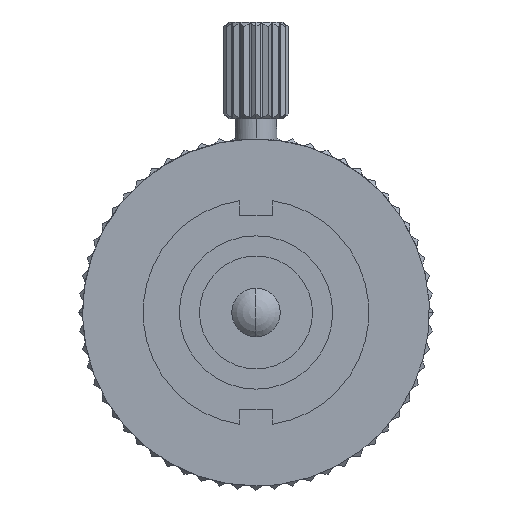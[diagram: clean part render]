
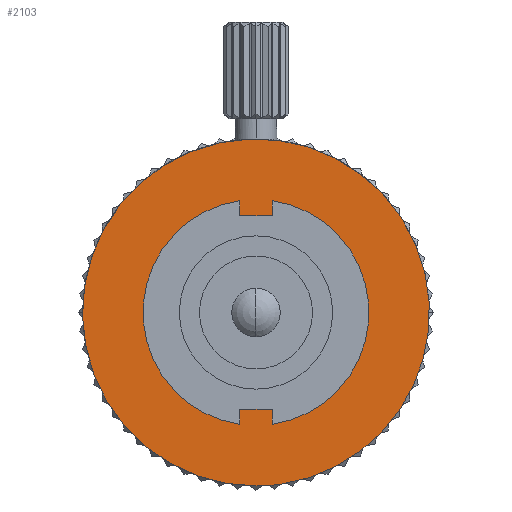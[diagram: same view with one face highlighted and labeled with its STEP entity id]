
A CAD part, left-side view. The second image highlights one B-rep face of the part: STEP entity #2103.
In plain terms, the highlighted planar face has unit normal (-1, 0, 0).
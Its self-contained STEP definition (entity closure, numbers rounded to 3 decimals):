
#2103=ADVANCED_FACE('',(#21968,#21969),#21967,.T.);
#21967=PLANE('',#34589);
#21968=FACE_OUTER_BOUND('',#34590,.T.);
#21969=FACE_BOUND('',#34591,.T.);
#34586=CARTESIAN_POINT('',(10.,-22.343,-13.975));
#34587=DIRECTION('',(-1.,0.,0.));
#34588=DIRECTION('',(0.,0.,1.));
#34589=AXIS2_PLACEMENT_3D('',#34586,#34587,#34588);
#34590=EDGE_LOOP('',(#47011,#47012,#47013));
#34591=EDGE_LOOP('',(#47014,#47015));
#47011=ORIENTED_EDGE('',*,*,#53872,.F.);
#47012=ORIENTED_EDGE('',*,*,#53873,.F.);
#47013=ORIENTED_EDGE('',*,*,#53874,.F.);
#47014=ORIENTED_EDGE('',*,*,#53875,.T.);
#47015=ORIENTED_EDGE('',*,*,#53876,.T.);
#53872=EDGE_CURVE('',#91994,#91995,#91996,.T.);
#53873=EDGE_CURVE('',#92002,#91994,#92003,.T.);
#53874=EDGE_CURVE('',#91995,#92002,#92009,.T.);
#53875=EDGE_CURVE('',#92015,#92016,#92017,.T.);
#53876=EDGE_CURVE('',#92016,#92015,#92023,.T.);
#91994=VERTEX_POINT('',#119174);
#91995=VERTEX_POINT('',#119175);
#91996=CIRCLE('',#119179,10.75);
#92002=VERTEX_POINT('',#119180);
#92003=CIRCLE('',#119184,10.75);
#92009=CIRCLE('',#119188,10.75);
#92015=VERTEX_POINT('',#119189);
#92016=VERTEX_POINT('',#119190);
#92017=CIRCLE('',#119194,4.75);
#92023=CIRCLE('',#119198,4.75);
#119174=CARTESIAN_POINT('',(10.,-1.589,-10.632));
#119175=CARTESIAN_POINT('',(10.,0.,-10.75));
#119176=CARTESIAN_POINT('',(10.,0.,0.));
#119177=DIRECTION('',(1.,0.,0.));
#119178=DIRECTION('',(0.,0.,-1.));
#119179=AXIS2_PLACEMENT_3D('',#119176,#119177,#119178);
#119180=CARTESIAN_POINT('',(10.,-10.731,0.639));
#119181=CARTESIAN_POINT('',(10.,0.,0.));
#119182=DIRECTION('',(1.,0.,0.));
#119183=DIRECTION('',(0.,0.,-1.));
#119184=AXIS2_PLACEMENT_3D('',#119181,#119182,#119183);
#119185=CARTESIAN_POINT('',(10.,0.,0.));
#119186=DIRECTION('',(1.,0.,0.));
#119187=DIRECTION('',(0.,0.,-1.));
#119188=AXIS2_PLACEMENT_3D('',#119185,#119186,#119187);
#119189=CARTESIAN_POINT('',(10.,0.,-4.75));
#119190=CARTESIAN_POINT('',(10.,0.,4.75));
#119191=CARTESIAN_POINT('',(10.,0.,0.));
#119192=DIRECTION('',(1.,0.,0.));
#119193=DIRECTION('',(0.,0.,-1.));
#119194=AXIS2_PLACEMENT_3D('',#119191,#119192,#119193);
#119195=CARTESIAN_POINT('',(10.,0.,0.));
#119196=DIRECTION('',(1.,0.,0.));
#119197=DIRECTION('',(0.,0.,-1.));
#119198=AXIS2_PLACEMENT_3D('',#119195,#119196,#119197);
